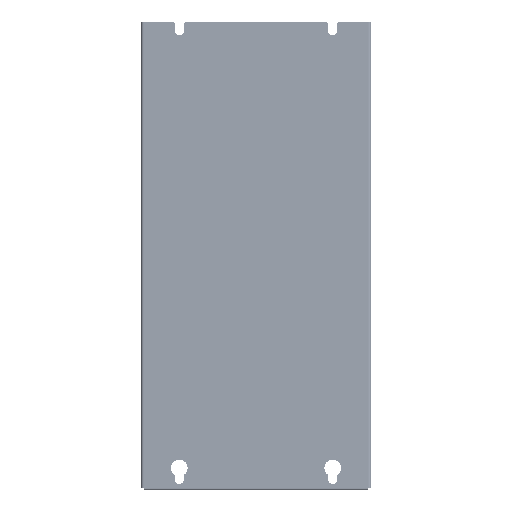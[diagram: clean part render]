
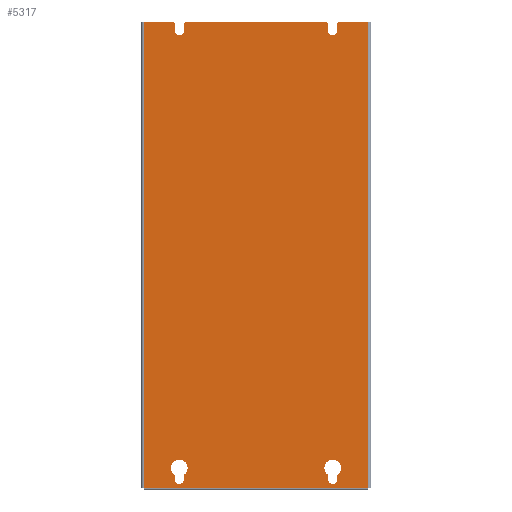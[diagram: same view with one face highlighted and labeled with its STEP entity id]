
A CAD part, front view. The second image highlights one B-rep face of the part: STEP entity #5317.
In plain terms, the highlighted planar face has unit normal (0, -1, 0).
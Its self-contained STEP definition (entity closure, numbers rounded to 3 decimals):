
#5317=ADVANCED_FACE('',(#93210,#93212,#93214),#93216,.T.);
#93210=FACE_BOUND('',#93211,.T.);
#93211=EDGE_LOOP('',(#217833,#217834,#217835,#217836,#217837,#217838,#217839,#217840,
#217841,#217842,#217843,#217844,#217845,#217846,#217847,#217848));
#93212=FACE_BOUND('',#93213,.T.);
#93213=EDGE_LOOP('',(#217849,#217850,#217851,#217852));
#93214=FACE_BOUND('',#93215,.T.);
#93215=EDGE_LOOP('',(#217853,#217854,#217855,#217856));
#93216=PLANE('',#93217);
#93217=AXIS2_PLACEMENT_3D('',#93218,#93219,#93220);
#93218=CARTESIAN_POINT('',(-90.,0.,-182.5));
#93219=DIRECTION('',(0.,-1.,0.));
#93220=DIRECTION('',(1.,0.,0.));
#217833=ORIENTED_EDGE('',*,*,#269367,.F.);
#217834=ORIENTED_EDGE('',*,*,#269368,.F.);
#217835=ORIENTED_EDGE('',*,*,#269369,.T.);
#217836=ORIENTED_EDGE('',*,*,#269200,.T.);
#217837=ORIENTED_EDGE('',*,*,#269370,.F.);
#217838=ORIENTED_EDGE('',*,*,#269371,.T.);
#217839=ORIENTED_EDGE('',*,*,#269372,.T.);
#217840=ORIENTED_EDGE('',*,*,#269373,.T.);
#217841=ORIENTED_EDGE('',*,*,#269374,.F.);
#217842=ORIENTED_EDGE('',*,*,#269375,.T.);
#217843=ORIENTED_EDGE('',*,*,#269376,.F.);
#217844=ORIENTED_EDGE('',*,*,#269377,.T.);
#217845=ORIENTED_EDGE('',*,*,#269378,.T.);
#217846=ORIENTED_EDGE('',*,*,#269379,.T.);
#217847=ORIENTED_EDGE('',*,*,#269380,.F.);
#217848=ORIENTED_EDGE('',*,*,#269381,.T.);
#217849=ORIENTED_EDGE('',*,*,#269382,.T.);
#217850=ORIENTED_EDGE('',*,*,#269383,.F.);
#217851=ORIENTED_EDGE('',*,*,#269384,.T.);
#217852=ORIENTED_EDGE('',*,*,#269366,.F.);
#217853=ORIENTED_EDGE('',*,*,#269385,.F.);
#217854=ORIENTED_EDGE('',*,*,#269386,.T.);
#217855=ORIENTED_EDGE('',*,*,#269387,.F.);
#217856=ORIENTED_EDGE('',*,*,#269388,.T.);
#269200=EDGE_CURVE('',#294649,#294646,#294650,.T.);
#269366=EDGE_CURVE('',#294964,#294962,#294966,.T.);
#269367=EDGE_CURVE('',#294967,#294968,#294969,.T.);
#269368=EDGE_CURVE('',#294970,#294967,#294971,.T.);
#269369=EDGE_CURVE('',#294970,#294649,#294972,.T.);
#269370=EDGE_CURVE('',#294973,#294646,#294974,.T.);
#269371=EDGE_CURVE('',#294973,#294975,#294976,.T.);
#269372=EDGE_CURVE('',#294975,#294977,#294978,.T.);
#269373=EDGE_CURVE('',#294977,#294979,#294980,.T.);
#269374=EDGE_CURVE('',#294981,#294979,#294982,.T.);
#269375=EDGE_CURVE('',#294981,#294983,#294984,.T.);
#269376=EDGE_CURVE('',#294985,#294983,#294986,.T.);
#269377=EDGE_CURVE('',#294985,#294987,#294988,.T.);
#269378=EDGE_CURVE('',#294987,#294989,#294990,.T.);
#269379=EDGE_CURVE('',#294989,#294991,#294992,.T.);
#269380=EDGE_CURVE('',#294993,#294991,#294994,.T.);
#269381=EDGE_CURVE('',#294993,#294968,#294995,.T.);
#269382=EDGE_CURVE('',#294964,#294996,#294997,.T.);
#269383=EDGE_CURVE('',#294998,#294996,#294999,.T.);
#269384=EDGE_CURVE('',#294998,#294962,#295000,.T.);
#269385=EDGE_CURVE('',#295001,#295002,#295003,.T.);
#269386=EDGE_CURVE('',#295001,#295004,#295005,.T.);
#269387=EDGE_CURVE('',#295006,#295004,#295007,.T.);
#269388=EDGE_CURVE('',#295006,#295002,#295008,.T.);
#294646=VERTEX_POINT('',#336614);
#294649=VERTEX_POINT('',#336622);
#294650=LINE('',#336623,#336624);
#294962=VERTEX_POINT('',#337274);
#294964=VERTEX_POINT('',#337278);
#294966=LINE('',#337282,#337283);
#294967=VERTEX_POINT('',#337285);
#294968=VERTEX_POINT('',#337286);
#294969=LINE('',#337287,#337288);
#294970=VERTEX_POINT('',#337290);
#294971=LINE('',#337291,#337292);
#294972=LINE('',#337294,#337295);
#294973=VERTEX_POINT('',#337297);
#294974=LINE('',#337298,#337299);
#294975=VERTEX_POINT('',#337301);
#294976=LINE('',#337302,#337303);
#294977=VERTEX_POINT('',#337305);
#294978=LINE('',#337306,#337307);
#294979=VERTEX_POINT('',#337309);
#294980=CIRCLE('',#337310,3.5);
#294981=VERTEX_POINT('',#337314);
#294982=LINE('',#337315,#337316);
#294983=VERTEX_POINT('',#337318);
#294984=LINE('',#337319,#337320);
#294985=VERTEX_POINT('',#337322);
#294986=LINE('',#337323,#337324);
#294987=VERTEX_POINT('',#337326);
#294988=LINE('',#337327,#337328);
#294989=VERTEX_POINT('',#337330);
#294990=LINE('',#337331,#337332);
#294991=VERTEX_POINT('',#337334);
#294992=CIRCLE('',#337335,3.5);
#294993=VERTEX_POINT('',#337339);
#294994=LINE('',#337340,#337341);
#294995=LINE('',#337343,#337344);
#294996=VERTEX_POINT('',#337346);
#294997=CIRCLE('',#337347,3.5);
#294998=VERTEX_POINT('',#337351);
#294999=LINE('',#337352,#337353);
#295000=CIRCLE('',#337355,6.5);
#295001=VERTEX_POINT('',#337359);
#295002=VERTEX_POINT('',#337360);
#295003=LINE('',#337361,#337362);
#295004=VERTEX_POINT('',#337364);
#295005=CIRCLE('',#337365,6.5);
#295006=VERTEX_POINT('',#337369);
#295007=LINE('',#337370,#337371);
#295008=CIRCLE('',#337373,3.5);
#336614=CARTESIAN_POINT('',(87.8,0.,182.5));
#336622=CARTESIAN_POINT('',(87.8,0.,-182.5));
#336623=CARTESIAN_POINT('',(87.8,0.,-182.5));
#336624=VECTOR('',#336625,1.);
#336625=DIRECTION('',(0.,0.,1.));
#337274=CARTESIAN_POINT('',(63.5,0.,-171.977));
#337278=CARTESIAN_POINT('',(63.5,0.,-175.5));
#337282=CARTESIAN_POINT('',(63.5,0.,-175.5));
#337283=VECTOR('',#337284,1.);
#337284=DIRECTION('',(0.,0.,1.));
#337285=CARTESIAN_POINT('',(-87.8,0.,182.5));
#337286=CARTESIAN_POINT('',(-64.5,0.,182.5));
#337287=CARTESIAN_POINT('',(-87.8,0.,182.5));
#337288=VECTOR('',#337289,1.);
#337289=DIRECTION('',(1.,0.,0.));
#337290=CARTESIAN_POINT('',(-87.8,0.,-182.5));
#337291=CARTESIAN_POINT('',(-87.8,0.,-182.5));
#337292=VECTOR('',#337293,1.);
#337293=DIRECTION('',(0.,0.,1.));
#337294=CARTESIAN_POINT('',(-87.8,0.,-182.5));
#337295=VECTOR('',#337296,1.);
#337296=DIRECTION('',(1.,0.,0.));
#337297=CARTESIAN_POINT('',(64.5,0.,182.5));
#337298=CARTESIAN_POINT('',(64.5,0.,182.5));
#337299=VECTOR('',#337300,1.);
#337300=DIRECTION('',(1.,0.,0.));
#337301=CARTESIAN_POINT('',(63.5,0.,181.5));
#337302=CARTESIAN_POINT('',(64.5,0.,182.5));
#337303=VECTOR('',#337304,1.);
#337304=DIRECTION('',(-0.707,0.,-0.707));
#337305=CARTESIAN_POINT('',(63.5,0.,175.5));
#337306=CARTESIAN_POINT('',(63.5,0.,181.5));
#337307=VECTOR('',#337308,1.);
#337308=DIRECTION('',(0.,0.,-1.));
#337309=CARTESIAN_POINT('',(56.5,0.,175.5));
#337310=AXIS2_PLACEMENT_3D('',#337311,#337312,#337313);
#337311=CARTESIAN_POINT('',(60.,0.,175.5));
#337312=DIRECTION('',(0.,1.,0.));
#337313=DIRECTION('',(1.,0.,0.));
#337314=CARTESIAN_POINT('',(56.5,0.,181.5));
#337315=CARTESIAN_POINT('',(56.5,0.,181.5));
#337316=VECTOR('',#337317,1.);
#337317=DIRECTION('',(0.,0.,-1.));
#337318=CARTESIAN_POINT('',(55.5,0.,182.5));
#337319=CARTESIAN_POINT('',(56.5,0.,181.5));
#337320=VECTOR('',#337321,1.);
#337321=DIRECTION('',(-0.707,0.,0.707));
#337322=CARTESIAN_POINT('',(-55.5,0.,182.5));
#337323=CARTESIAN_POINT('',(-55.5,0.,182.5));
#337324=VECTOR('',#337325,1.);
#337325=DIRECTION('',(1.,0.,0.));
#337326=CARTESIAN_POINT('',(-56.5,0.,181.5));
#337327=CARTESIAN_POINT('',(-55.5,0.,182.5));
#337328=VECTOR('',#337329,1.);
#337329=DIRECTION('',(-0.707,0.,-0.707));
#337330=CARTESIAN_POINT('',(-56.5,0.,175.5));
#337331=CARTESIAN_POINT('',(-56.5,0.,181.5));
#337332=VECTOR('',#337333,1.);
#337333=DIRECTION('',(0.,0.,-1.));
#337334=CARTESIAN_POINT('',(-63.5,0.,175.5));
#337335=AXIS2_PLACEMENT_3D('',#337336,#337337,#337338);
#337336=CARTESIAN_POINT('',(-60.,0.,175.5));
#337337=DIRECTION('',(0.,1.,0.));
#337338=DIRECTION('',(1.,0.,0.));
#337339=CARTESIAN_POINT('',(-63.5,0.,181.5));
#337340=CARTESIAN_POINT('',(-63.5,0.,181.5));
#337341=VECTOR('',#337342,1.);
#337342=DIRECTION('',(0.,0.,-1.));
#337343=CARTESIAN_POINT('',(-63.5,0.,181.5));
#337344=VECTOR('',#337345,1.);
#337345=DIRECTION('',(-0.707,0.,0.707));
#337346=CARTESIAN_POINT('',(56.5,0.,-175.5));
#337347=AXIS2_PLACEMENT_3D('',#337348,#337349,#337350);
#337348=CARTESIAN_POINT('',(60.,0.,-175.5));
#337349=DIRECTION('',(0.,1.,0.));
#337350=DIRECTION('',(1.,0.,0.));
#337351=CARTESIAN_POINT('',(56.5,0.,-171.977));
#337352=CARTESIAN_POINT('',(56.5,0.,-171.977));
#337353=VECTOR('',#337354,1.);
#337354=DIRECTION('',(0.,0.,-1.));
#337355=AXIS2_PLACEMENT_3D('',#337356,#337357,#337358);
#337356=CARTESIAN_POINT('',(60.,0.,-166.5));
#337357=DIRECTION('',(0.,1.,0.));
#337358=DIRECTION('',(-0.538,0.,-0.843));
#337359=CARTESIAN_POINT('',(-63.5,0.,-171.977));
#337360=CARTESIAN_POINT('',(-63.5,0.,-175.5));
#337361=CARTESIAN_POINT('',(-63.5,0.,-171.977));
#337362=VECTOR('',#337363,1.);
#337363=DIRECTION('',(0.,0.,-1.));
#337364=CARTESIAN_POINT('',(-56.5,0.,-171.977));
#337365=AXIS2_PLACEMENT_3D('',#337366,#337367,#337368);
#337366=CARTESIAN_POINT('',(-60.,0.,-166.5));
#337367=DIRECTION('',(0.,1.,0.));
#337368=DIRECTION('',(-0.538,0.,-0.843));
#337369=CARTESIAN_POINT('',(-56.5,0.,-175.5));
#337370=CARTESIAN_POINT('',(-56.5,0.,-175.5));
#337371=VECTOR('',#337372,1.);
#337372=DIRECTION('',(0.,0.,1.));
#337373=AXIS2_PLACEMENT_3D('',#337374,#337375,#337376);
#337374=CARTESIAN_POINT('',(-60.,0.,-175.5));
#337375=DIRECTION('',(0.,1.,0.));
#337376=DIRECTION('',(1.,0.,0.));
